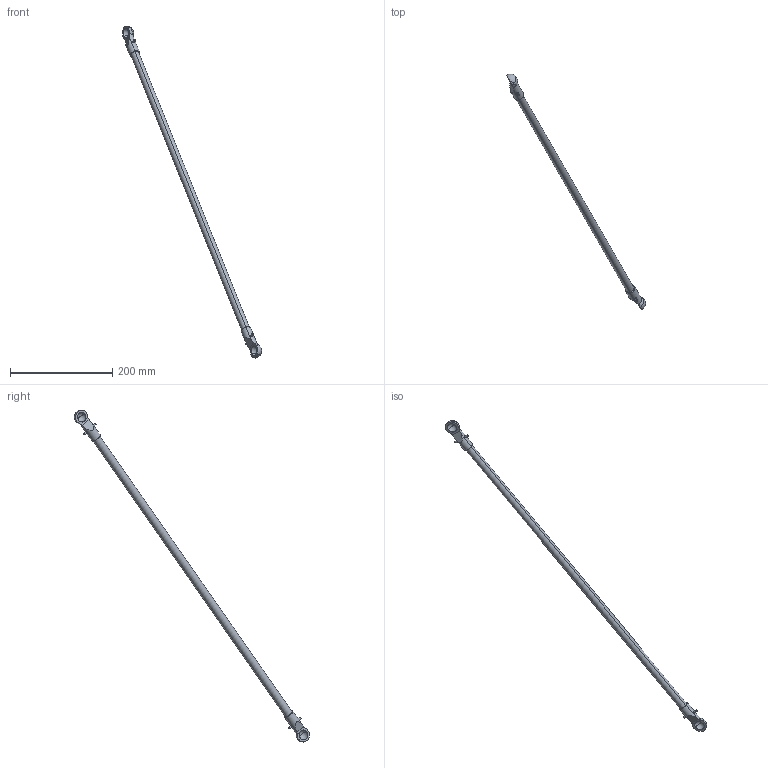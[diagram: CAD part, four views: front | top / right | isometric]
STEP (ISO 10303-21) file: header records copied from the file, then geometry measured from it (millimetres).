
FILE_DESCRIPTION (( 'STEP AP214' ), '1' );
FILE_NAME ('IRB360_8-1130-STD-4D_rev03_LA3_1_CAD.STEP', '2025-05-19T14:24:18', ( '' ), ( '' ), 'SwSTEP 2.0', 'SolidWorks 2022', '' );
FILE_SCHEMA (( 'AUTOMOTIVE_DESIGN' ));
Length unit declared in the file: millimetre
Products named in the file (1): IRB360_8-1130-STD-4D_rev03_LA3_1_CAD
Bounding box: 272.67 x 461.21 x 650.92 mm (x, y, z)
Volume: 172340.4 mm3; surface area: 44609.1 mm2
Topology: 1 solids, 1 shells, 40 faces, 111 edges, 67 vertices
Faces by surface type: cylinder 16, sphere 14, plane 10
Entity records: 1513 total; most frequent: CARTESIAN_POINT 412, DIRECTION 202, ORIENTED_EDGE 184, EDGE_CURVE 92, AXIS2_PLACEMENT_3D 91, VERTEX_POINT 60, CIRCLE 50, EDGE_LOOP 46
